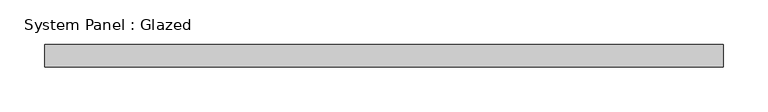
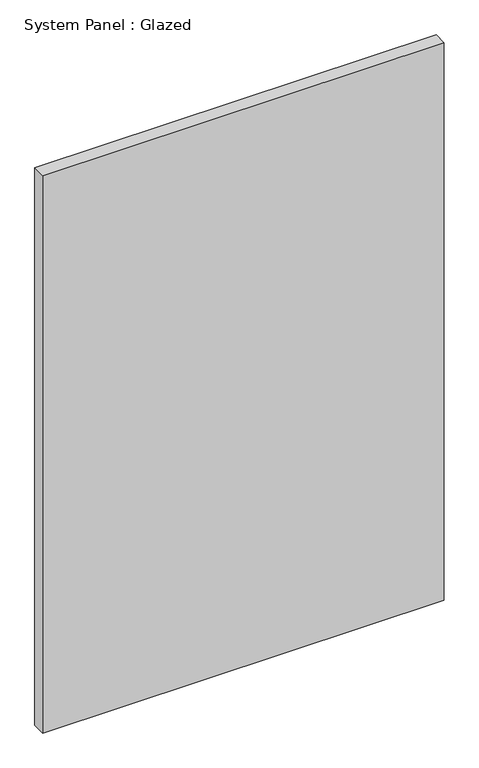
"""IFC4 building model written with IfcOpenShell, lengths in millimetres: plate geometry, System Panel : Glazed."""

import ifcopenshell
import ifcopenshell.guid

model = None  # the IFC model being written
_history = None  # IfcOwnerHistory: only IFC2X3 demands one
_inside = {}  # id of a spatial element -> (the spatial element, [elements in it])
_under = {}  # id of a project, library or spatial element -> (it, [spatial elements below it])
_declared = {}  # id of a project -> (the project, [libraries it declares])
_typed = {}  # id of a type object -> (the type object, [elements of that type])
_made_of = {}  # id of a material, layer set ... -> (it, [elements and type objects made of it])


def new_model(schema):
    """Start an empty IFC model of exactly this schema.

    Asked for "IFC4X3", IfcOpenShell would pick the latest addendum, in which some entities
    have other attributes; the version numbers below select the first issue.
    IFC2X3 requires an IfcOwnerHistory on every rooted entity: one is made here for all.
    """
    global model, _history
    if schema == "IFC4X3":
        model = ifcopenshell.file(schema_version=(4, 3, 0, 0))
    else:
        model = ifcopenshell.file(schema=schema)
    _inside.clear()
    _under.clear()
    _declared.clear()
    _typed.clear()
    _made_of.clear()
    _history = None
    if model.schema == "IFC2X3":
        org = make("IfcOrganization", Name="unknown")
        user = make(
            "IfcPersonAndOrganization",
            ThePerson=make("IfcPerson", FamilyName="unknown"),
            TheOrganization=org,
        )
        app = make(
            "IfcApplication",
            ApplicationDeveloper=org,
            Version="unknown",
            ApplicationFullName="unknown",
            ApplicationIdentifier="unknown",
        )
        _history = make(
            "IfcOwnerHistory",
            OwningUser=user,
            OwningApplication=app,
            ChangeAction="ADDED",
            CreationDate=0,
        )
    return model


def make(cls, **values):
    """One entity of the class cls with the attributes given. An attribute that is None is left unset."""
    return model.create_entity(
        cls, **{name: value for name, value in values.items() if value is not None}
    )


def rooted(cls, **values):
    """An entity with a GlobalId (a new one), such as an element, a storey or a relation."""
    return make(cls, GlobalId=ifcopenshell.guid.new(), OwnerHistory=_history, **values)


def si_unit(unit_type, name, prefix=None):
    """IfcSIUnit, for example si_unit("LENGTHUNIT", "METRE", prefix="MILLI")."""
    return make("IfcSIUnit", UnitType=unit_type, Prefix=prefix, Name=name)


def assignment(units):
    """IfcUnitAssignment: the units of a project."""
    return None if units is None else make("IfcUnitAssignment", Units=units)


def point(xyz):
    """IfcCartesianPoint."""
    return None if xyz is None else make("IfcCartesianPoint", Coordinates=xyz)


def direction(xyz):
    """IfcDirection."""
    return None if xyz is None else make("IfcDirection", DirectionRatios=xyz)


def frame(location, z_axis=None, x_axis=None):
    """IfcAxis2Placement3D, a coordinate frame: its origin and axes. An axis left out is left unset."""
    return make(
        "IfcAxis2Placement3D",
        Location=point(location),
        Axis=direction(z_axis),
        RefDirection=direction(x_axis),
    )


def origin():
    """The frame at (0, 0, 0) with its axes left unset."""
    return frame((0.0, 0.0, 0.0))


def origin_with_axes():
    """The frame at (0, 0, 0) with the z axis (0, 0, 1) and the x axis (1, 0, 0) written out."""
    return frame((0.0, 0.0, 0.0), z_axis=(0.0, 0.0, 1.0), x_axis=(1.0, 0.0, 0.0))


def place(relative_to, where):
    """IfcLocalPlacement: puts the frame where relative to a parent placement (None: the world)."""
    return make(
        "IfcLocalPlacement", PlacementRelTo=relative_to, RelativePlacement=where
    )


def context(
    kind, dimensions, precision=None, world=None, true_north=None, identifier=None
):
    """IfcGeometricRepresentationContext, for example the 3D "Model" context."""
    return make(
        "IfcGeometricRepresentationContext",
        ContextIdentifier=identifier,
        ContextType=kind,
        CoordinateSpaceDimension=dimensions,
        Precision=precision,
        WorldCoordinateSystem=world,
        TrueNorth=true_north,
    )


def project(units=None, contexts=None):
    """IfcProject with its units and contexts."""
    return rooted(
        "IfcProject",
        Name="project",
        RepresentationContexts=contexts,
        UnitsInContext=assignment(units),
    )


def spatial(cls, under=None, at=None, **own):
    """A site, building, storey or space (cls), placed at a placement, below another one or the project."""
    s = rooted(cls, ObjectPlacement=at, **own)
    if under is not None:
        _under.setdefault(under.id(), (under, []))[1].append(s)
    return s


def polyline(points):
    """IfcPolyline through the points."""
    return make("IfcPolyline", Points=[point(p) for p in points])


def outline(outer, holes=None, kind="AREA"):
    """IfcArbitraryClosedProfileDef: a profile drawn as a closed curve; with holes, ...WithVoids."""
    if holes is None:
        return make("IfcArbitraryClosedProfileDef", ProfileType=kind, OuterCurve=outer)
    return make(
        "IfcArbitraryProfileDefWithVoids",
        ProfileType=kind,
        OuterCurve=outer,
        InnerCurves=holes,
    )


def extrude(swept, where, along, depth):
    """IfcExtrudedAreaSolid: the profile swept, set in the frame where, extruded along a direction by depth."""
    return make(
        "IfcExtrudedAreaSolid",
        SweptArea=swept,
        Position=where,
        ExtrudedDirection=direction(along),
        Depth=depth,
    )


def shape(context_of_items, identifier, shape_type, items):
    """IfcShapeRepresentation: the items that make up one representation, for example the "Body"."""
    return make(
        "IfcShapeRepresentation",
        ContextOfItems=context_of_items,
        RepresentationIdentifier=identifier,
        RepresentationType=shape_type,
        Items=items,
    )


def source(mapping_origin, context_of_items, identifier, shape_type, items):
    """IfcRepresentationMap: a shape defined once, which mapped items show again and again."""
    return make(
        "IfcRepresentationMap",
        MappingOrigin=mapping_origin,
        MappedRepresentation=shape(context_of_items, identifier, shape_type, items),
    )


def transform(
    local_origin,
    x_axis=None,
    y_axis=None,
    z_axis=None,
    scale=None,
    scale2=None,
    scale3=None,
    uniform=True,
):
    """IfcCartesianTransformationOperator3D, or its non-uniform kind. x_axis, y_axis, z_axis: its Axis1, 2, 3."""
    if uniform:
        return make(
            "IfcCartesianTransformationOperator3D",
            Axis1=direction(x_axis),
            Axis2=direction(y_axis),
            LocalOrigin=point(local_origin),
            Scale=scale,
            Axis3=direction(z_axis),
        )
    return make(
        "IfcCartesianTransformationOperator3DnonUniform",
        Axis1=direction(x_axis),
        Axis2=direction(y_axis),
        LocalOrigin=point(local_origin),
        Scale=scale,
        Axis3=direction(z_axis),
        Scale2=scale2,
        Scale3=scale3,
    )


def mapped(mapping_source, mapping_target):
    """IfcMappedItem: shows the shape of a source again, moved by a transform."""
    return make(
        "IfcMappedItem", MappingSource=mapping_source, MappingTarget=mapping_target
    )


def made_of(thing, what):
    """Note that an element or type object is made of a material, layer set ...; save() writes the relation."""
    if what is not None:
        _made_of.setdefault(what.id(), (what, []))[1].append(thing)
    return thing


def element(
    cls,
    number,
    at=None,
    inside=None,
    cuts=None,
    type_object=None,
    material=None,
    context=None,
    identifier="Body",
    shape_type=None,
    held_by="IfcProductDefinitionShape",
    body=None,
    shapes=None,
    **own,
):
    """One element of the class cls, such as IfcWall. Its Tag is "e" and its number.

    at: its placement. inside: the storey or other place that contains it. cuts: it is an
    opening in that element (IfcRelVoidsElement). A single representation is given by context,
    identifier, shape_type and body (its items); several are given by shapes. held_by: the class
    of the entity that holds the representations. save() writes the other relations.
    """
    e = rooted(cls, Tag="e%d" % number, ObjectPlacement=at, **own)
    if body is not None:
        shapes = [shape(context, identifier, shape_type, body)]
    if shapes is not None:
        e.Representation = make(held_by, Representations=shapes)
    if inside is not None:
        _inside.setdefault(inside.id(), (inside, []))[1].append(e)
    if cuts is not None:
        rooted(
            "IfcRelVoidsElement", RelatingBuildingElement=cuts, RelatedOpeningElement=e
        )
    if type_object is not None:
        _typed.setdefault(type_object.id(), (type_object, []))[1].append(e)
    return made_of(e, material)


def aggregate(whole, parts):
    """IfcRelAggregates: a whole, such as a stair, and the parts it consists of."""
    return rooted("IfcRelAggregates", RelatingObject=whole, RelatedObjects=parts)


def save(model, path):
    """Write the relations noted so far, then the file.

    IfcRelAggregates (storeys below a building ...), IfcRelContainedInSpatialStructure (elements
    in a storey), IfcRelDefinesByType, IfcRelAssociatesMaterial and IfcRelDeclares: one each for
    every whole, place, type object, material and project.
    """
    for whole, parts in _under.values():
        aggregate(whole, parts)
    for where, things in _inside.values():
        rooted(
            "IfcRelContainedInSpatialStructure",
            RelatedElements=things,
            RelatingStructure=where,
        )
    for kind, things in _typed.values():
        rooted("IfcRelDefinesByType", RelatedObjects=things, RelatingType=kind)
    for what, things in _made_of.values():
        rooted("IfcRelAssociatesMaterial", RelatedObjects=things, RelatingMaterial=what)
    for by, libraries in _declared.values():
        rooted("IfcRelDeclares", RelatingContext=by, RelatedDefinitions=libraries)
    model.write(path)


def system_panel_glazed_34aa382c(model_context):
    return source(origin(), model_context, "Body", "SweptSolid", [
        extrude(outline(polyline([(379.0, 24.5), (-379.0, 24.5), (-379.0, 49.5), (379.0, 49.5), (379.0, 24.5)])), origin_with_axes(), (0.0, 0.0, 1.0), 1112.0),
    ])


if __name__ == "__main__":
    model = new_model("IFC4")
    model_context = context("Model", 3, world=origin())
    ifc_project = project(units=[si_unit("LENGTHUNIT", "METRE", prefix="MILLI")], contexts=[model_context])
    site = spatial("IfcSite", under=ifc_project)
    building = spatial("IfcBuilding", under=site)
    placement = place(None, origin())
    system_panel_glazed_shape = system_panel_glazed_34aa382c(model_context)
    element("IfcPlate", 1, ObjectType="System Panel : Glazed", at=placement, inside=building, context=model_context, shape_type="MappedRepresentation", body=[
        mapped(system_panel_glazed_shape, transform((0.0, 0.0, 0.0), x_axis=(1.0, 0.0, 0.0), y_axis=(0.0, 1.0, 0.0), z_axis=(0.0, 0.0, 1.0))),
    ])
    save(model, "model.ifc")
